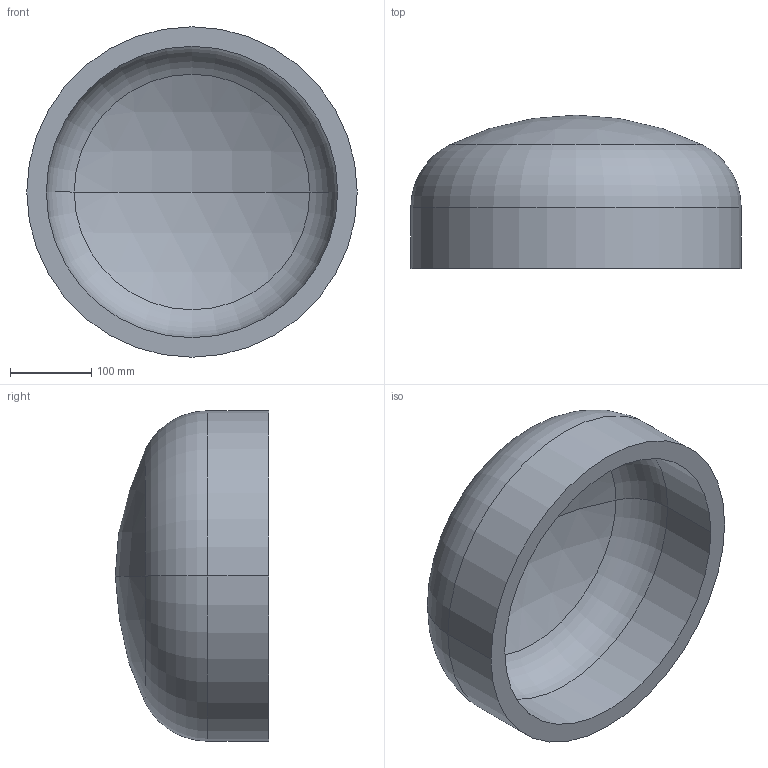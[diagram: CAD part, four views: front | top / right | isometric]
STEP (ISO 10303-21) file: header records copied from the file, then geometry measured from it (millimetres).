
FILE_DESCRIPTION (( 'STEP AP203' ), '1' );
FILE_NAME ('DIN 28013 Korbbogenform_-_Boden DIN 28013 - 406,4 x 75 - I - s=24.step', '2016-07-01T07:49:47', ( '' ), ( '' ), 'SwSTEP 2.0', 'SolidWorks 2013', '' );
FILE_SCHEMA (( 'CONFIG_CONTROL_DESIGN' ));
Length unit declared in the file: millimetre
Products named in the file (1): DIN 28013 Korbbogenform_-_Boden DIN 28013 - 406,4 x 75 - I - s=24
Bounding box: 406.4 x 188.56 x 406.4 mm (x, y, z)
Volume: 6153639 mm3; surface area: 542841.8 mm2
Topology: 1 solids, 1 shells, 13 faces, 24 edges, 14 vertices
Faces by surface type: torus 4, cylinder 4, sphere 4, plane 1
Entity records: 407 total; most frequent: DIRECTION 72, CARTESIAN_POINT 52, ORIENTED_EDGE 48, AXIS2_PLACEMENT_3D 34, EDGE_CURVE 24, CIRCLE 20, EDGE_LOOP 14, VERTEX_POINT 14
